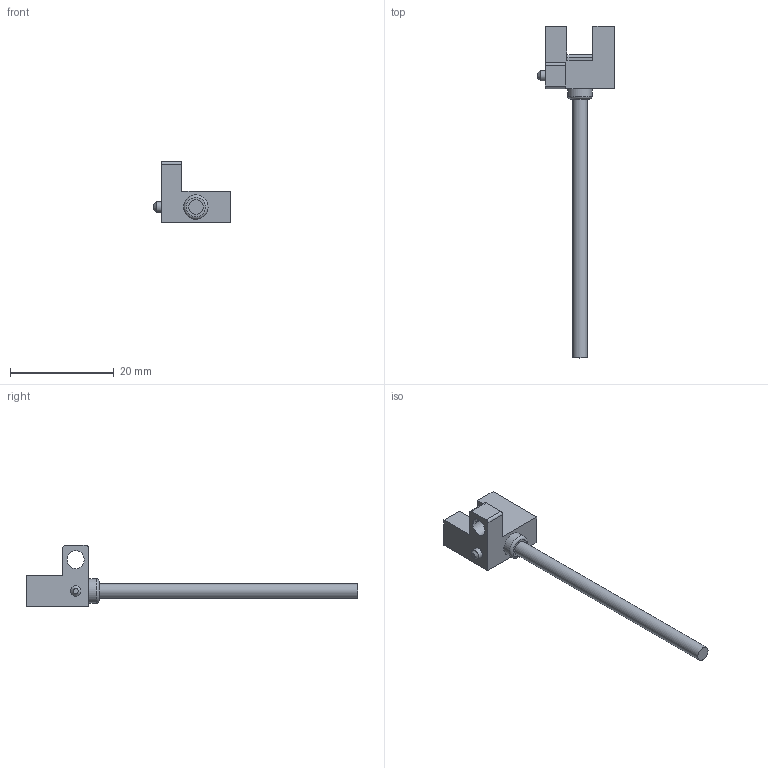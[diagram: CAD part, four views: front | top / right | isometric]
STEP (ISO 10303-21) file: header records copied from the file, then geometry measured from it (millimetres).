
FILE_DESCRIPTION(/* description */ (''),/* implementation_level */ '2;1');
FILE_NAME(/* name */ 'C:\Users\HYF-ID009\Desktop\2021_3D\03)槽型传感器_3D\03-04)LU24系列_3D\LU_F24_K2.stp',/* time_stamp */ '2021-05-09T15:47:30+08:00',/* author */ ('HYF-ID009'),/* organization */ (''),/* preprocessor_version */ 'ST-DEVELOPER v16.5',/* originating_system */ 'Autodesk Inventor 2017',/* authorisation */ '');
FILE_SCHEMA (('AUTOMOTIVE_DESIGN { 1 0 10303 214 3 1 1 }'));
Length unit declared in the file: millimetre
Products named in the file (1): LU_F24
Bounding box: 14.9 x 64.1 x 11.8 mm (x, y, z)
Volume: 1217 mm3; surface area: 1239.9 mm2
Topology: 1 solids, 1 shells, 51 faces, 134 edges, 90 vertices
Faces by surface type: plane 42, cylinder 7, torus 1, cone 1
Full cylindrical faces by diameter (mm): 2 x1, 2.8 x1, 4.7 x1
Entity records: 1569 total; most frequent: CARTESIAN_POINT 271, ORIENTED_EDGE 258, DIRECTION 249, EDGE_CURVE 129, LINE 113, VECTOR 113, VERTEX_POINT 90, AXIS2_PLACEMENT_3D 68
